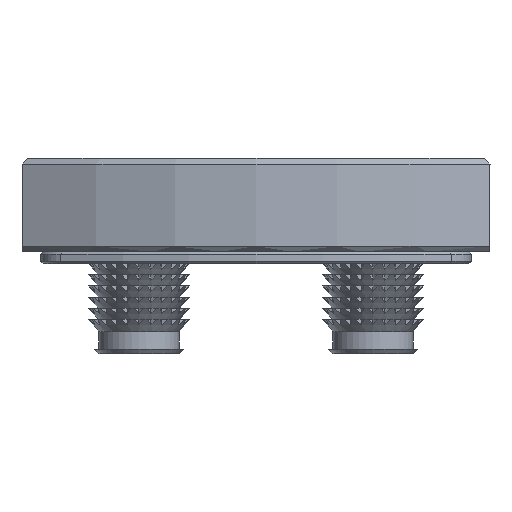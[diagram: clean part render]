
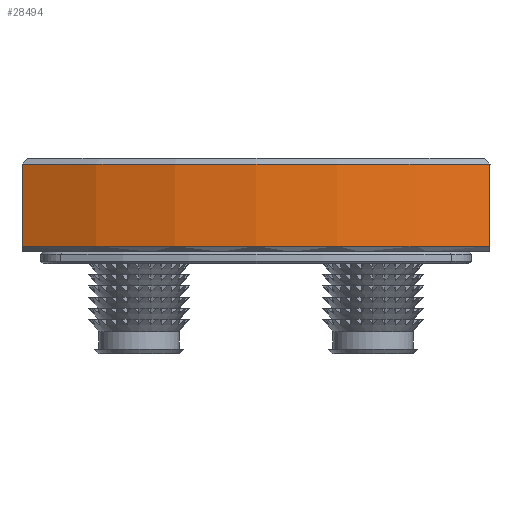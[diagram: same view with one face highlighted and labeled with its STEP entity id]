
A CAD part, left-side view. The second image highlights one B-rep face of the part: STEP entity #28494.
In plain terms, the highlighted cylindrical face has radius 40 mm (diameter 80 mm), a partial arc.
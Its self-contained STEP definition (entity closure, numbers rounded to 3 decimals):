
#5201 = FACE_OUTER_BOUND ( 'NONE', #39307, .T. ) ;
#5393 = CARTESIAN_POINT ( 'NONE',  ( 11.359, -20., -9.215 ) ) ;
#7035 = CARTESIAN_POINT ( 'NONE',  ( 11.359, -20., -2.215 ) ) ;
#9824 = DIRECTION ( 'NONE',  ( 0., 0., 1. ) ) ;
#16443 = CARTESIAN_POINT ( 'NONE',  ( 46., 0., -2.215 ) ) ;
#16872 = DIRECTION ( 'NONE',  ( 0., 0., -1. ) ) ;
#18221 = CARTESIAN_POINT ( 'NONE',  ( 46., 0., -9.715 ) ) ;
#23121 = VERTEX_POINT ( 'NONE', #5393 ) ;
#23603 = VECTOR ( 'NONE', #54854, 1000. ) ;
#27275 = AXIS2_PLACEMENT_3D ( 'NONE', #50879, #63913, #46946 ) ;
#28494 = ADVANCED_FACE ( 'NONE', ( #5201 ), #74178, .T. ) ;
#28991 = EDGE_CURVE ( 'NONE', #73430, #29778, #60498, .T. ) ;
#29778 = VERTEX_POINT ( 'NONE', #36812 ) ;
#33541 = CARTESIAN_POINT ( 'NONE',  ( 11.359, -20., -9.715 ) ) ;
#35275 = ORIENTED_EDGE ( 'NONE', *, *, #28991, .T. ) ;
#36812 = CARTESIAN_POINT ( 'NONE',  ( 11.359, 20., -2.215 ) ) ;
#39307 = EDGE_LOOP ( 'NONE', ( #41075, #47283, #42894, #35275 ) ) ;
#41075 = ORIENTED_EDGE ( 'NONE', *, *, #42313, .F. ) ;
#42313 = EDGE_CURVE ( 'NONE', #80887, #29778, #54432, .T. ) ;
#42894 = ORIENTED_EDGE ( 'NONE', *, *, #54420, .T. ) ;
#46946 = DIRECTION ( 'NONE',  ( -1., 0., 0. ) ) ;
#47283 = ORIENTED_EDGE ( 'NONE', *, *, #66407, .T. ) ;
#50087 = CARTESIAN_POINT ( 'NONE',  ( 11.359, 20., -9.215 ) ) ;
#50879 = CARTESIAN_POINT ( 'NONE',  ( 46., 0., -9.215 ) ) ;
#52878 = DIRECTION ( 'NONE',  ( 0., 0., 1. ) ) ;
#53759 = AXIS2_PLACEMENT_3D ( 'NONE', #18221, #9824, #54855 ) ;
#54420 = EDGE_CURVE ( 'NONE', #23121, #73430, #65088, .T. ) ;
#54432 = LINE ( 'NONE', #55685, #23603 ) ;
#54854 = DIRECTION ( 'NONE',  ( 0., 0., 1. ) ) ;
#54855 = DIRECTION ( 'NONE',  ( 1., 0., 0. ) ) ;
#55685 = CARTESIAN_POINT ( 'NONE',  ( 11.359, 20., -9.715 ) ) ;
#59550 = CIRCLE ( 'NONE', #27275, 40. ) ;
#60498 = CIRCLE ( 'NONE', #77966, 40. ) ;
#63913 = DIRECTION ( 'NONE',  ( 0., 0., 1. ) ) ;
#65088 = LINE ( 'NONE', #33541, #74886 ) ;
#66407 = EDGE_CURVE ( 'NONE', #80887, #23121, #59550, .T. ) ;
#73430 = VERTEX_POINT ( 'NONE', #7035 ) ;
#74178 = CYLINDRICAL_SURFACE ( 'NONE', #53759, 40. ) ;
#74493 = DIRECTION ( 'NONE',  ( -1., 0., 0. ) ) ;
#74886 = VECTOR ( 'NONE', #52878, 1000. ) ;
#77966 = AXIS2_PLACEMENT_3D ( 'NONE', #16443, #16872, #74493 ) ;
#80887 = VERTEX_POINT ( 'NONE', #50087 ) ;
